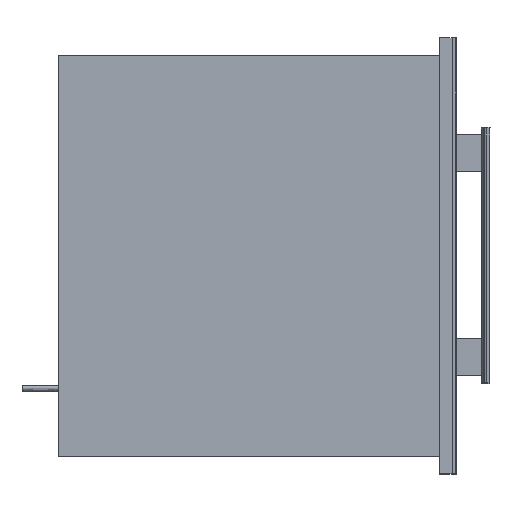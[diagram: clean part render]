
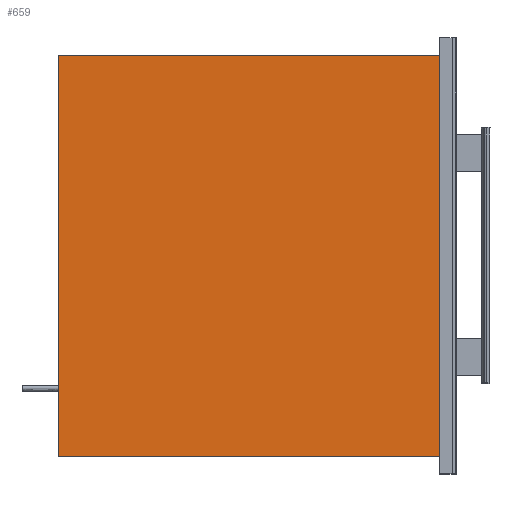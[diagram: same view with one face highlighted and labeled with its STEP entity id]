
A CAD part, top view. The second image highlights one B-rep face of the part: STEP entity #659.
In plain terms, the highlighted free-form (B-spline) face has degree [1, 1] with [2, 2] control points.
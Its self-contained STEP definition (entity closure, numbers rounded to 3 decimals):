
#659=ADVANCED_FACE('',(#918),#3054,.T.);
#918=FACE_OUTER_BOUND('',#1179,.T.);
#1179=EDGE_LOOP('',(#1872,#1873,#1874,#1875));
#1872=ORIENTED_EDGE('',*,*,#2499,.T.);
#1873=ORIENTED_EDGE('',*,*,#2495,.T.);
#1874=ORIENTED_EDGE('',*,*,#2498,.F.);
#1875=ORIENTED_EDGE('',*,*,#2492,.F.);
#2492=EDGE_CURVE('',#2860,#2861,#3263,.T.);
#2495=EDGE_CURVE('',#2862,#2863,#3266,.T.);
#2498=EDGE_CURVE('',#2861,#2863,#3269,.T.);
#2499=EDGE_CURVE('',#2860,#2862,#3270,.T.);
#2860=VERTEX_POINT('',#12314);
#2861=VERTEX_POINT('',#12315);
#2862=VERTEX_POINT('',#12316);
#2863=VERTEX_POINT('',#12317);
#3054=B_SPLINE_SURFACE_WITH_KNOTS('',1,1,((#12290,#12291),(#12292,#12293)),
.UNSPECIFIED.,.F.,.F.,.F.,(2,2),(2,2),(0.048,0.96),
(0.075,0.943),.UNSPECIFIED.);
#3263=B_SPLINE_CURVE_WITH_KNOTS('',3,(#12162,#12163,#12164,#12165),.UNSPECIFIED.,
.F.,.F.,(4,4),(23.843,571.345),.UNSPECIFIED.);
#3266=B_SPLINE_CURVE_WITH_KNOTS('',1,(#12180,#12181),.UNSPECIFIED.,.F.,.F.,
(2,2),(0.04,0.952),.UNSPECIFIED.);
#3269=B_SPLINE_CURVE_WITH_KNOTS('',1,(#12186,#12187),.UNSPECIFIED.,.F.,.F.,
(2,2),(0.075,0.943),.UNSPECIFIED.);
#3270=B_SPLINE_CURVE_WITH_KNOTS('',1,(#12188,#12189),.UNSPECIFIED.,.F.,.F.,
(2,2),(0.075,0.943),.UNSPECIFIED.);
#12162=CARTESIAN_POINT('',(-520.589,-273.864,445.011));
#12163=CARTESIAN_POINT('',(-520.589,-91.363,445.011));
#12164=CARTESIAN_POINT('',(-520.589,91.138,445.011));
#12165=CARTESIAN_POINT('',(-520.589,273.639,445.011));
#12180=CARTESIAN_POINT('',(-0.089,-273.864,445.011));
#12181=CARTESIAN_POINT('',(-0.089,273.639,445.011));
#12186=CARTESIAN_POINT('',(-520.589,273.639,445.011));
#12187=CARTESIAN_POINT('',(-0.089,273.639,445.011));
#12188=CARTESIAN_POINT('',(-520.589,-273.864,445.011));
#12189=CARTESIAN_POINT('',(-0.089,-273.864,445.011));
#12290=CARTESIAN_POINT('',(-520.589,273.639,445.011));
#12291=CARTESIAN_POINT('',(-0.089,273.639,445.011));
#12292=CARTESIAN_POINT('',(-520.589,-273.864,445.011));
#12293=CARTESIAN_POINT('',(-0.089,-273.864,445.011));
#12314=CARTESIAN_POINT('',(-520.589,-273.864,445.011));
#12315=CARTESIAN_POINT('',(-520.589,273.639,445.011));
#12316=CARTESIAN_POINT('',(-0.089,-273.864,445.011));
#12317=CARTESIAN_POINT('',(-0.089,273.639,445.011));
